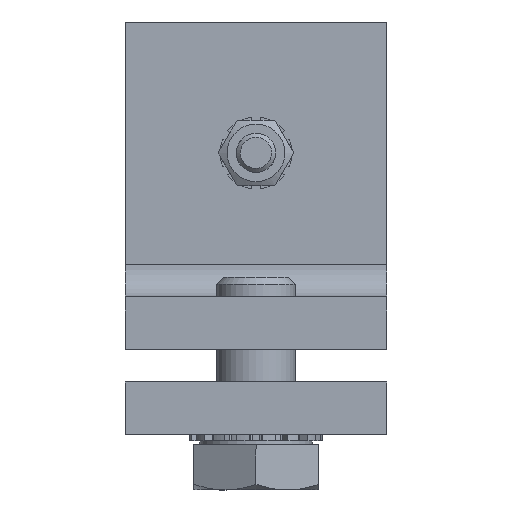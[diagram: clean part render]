
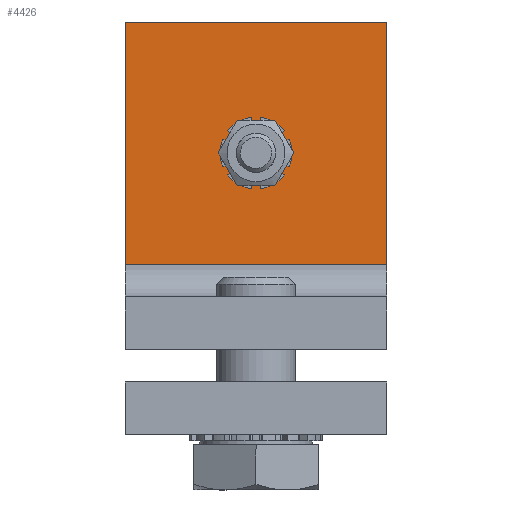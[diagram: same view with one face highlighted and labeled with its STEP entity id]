
A CAD part, front view. The second image highlights one B-rep face of the part: STEP entity #4426.
In plain terms, the highlighted planar face has unit normal (0, -1, 0).
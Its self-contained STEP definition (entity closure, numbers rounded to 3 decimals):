
#143=PLANE('',#4705);
#254=LINE('',#6755,#600);
#257=LINE('',#6761,#603);
#258=LINE('',#6763,#604);
#259=LINE('',#6764,#605);
#600=VECTOR('',#5285,37.);
#603=VECTOR('',#5290,40.);
#604=VECTOR('',#5291,37.);
#605=VECTOR('',#5292,40.);
#946=FACE_BOUND('',#1264,.T.);
#998=FACE_OUTER_BOUND('',#1263,.T.);
#1263=EDGE_LOOP('',(#2977,#2978,#2979,#2980));
#1264=EDGE_LOOP('',(#2981));
#1567=CIRCLE('',#4693,3.5);
#1849=VERTEX_POINT('',#6728);
#1859=VERTEX_POINT('',#6752);
#1860=VERTEX_POINT('',#6754);
#1862=VERTEX_POINT('',#6760);
#1863=VERTEX_POINT('',#6762);
#2299=EDGE_CURVE('',#1849,#1849,#1567,.T.);
#2310=EDGE_CURVE('',#1860,#1859,#254,.T.);
#2313=EDGE_CURVE('',#1859,#1862,#257,.T.);
#2314=EDGE_CURVE('',#1863,#1862,#258,.T.);
#2315=EDGE_CURVE('',#1863,#1860,#259,.T.);
#2977=ORIENTED_EDGE('',*,*,#2313,.T.);
#2978=ORIENTED_EDGE('',*,*,#2314,.F.);
#2979=ORIENTED_EDGE('',*,*,#2315,.T.);
#2980=ORIENTED_EDGE('',*,*,#2310,.T.);
#2981=ORIENTED_EDGE('',*,*,#2299,.T.);
#4426=ADVANCED_FACE('',(#998,#946),#143,.T.);
#4693=AXIS2_PLACEMENT_3D('',#6729,#5258,#5259);
#4705=AXIS2_PLACEMENT_3D('',#6759,#5288,#5289);
#5258=DIRECTION('center_axis',(0.,1.,0.));
#5259=DIRECTION('ref_axis',(1.,0.,0.));
#5285=DIRECTION('',(0.,0.,-1.));
#5288=DIRECTION('center_axis',(0.,-1.,0.));
#5289=DIRECTION('ref_axis',(1.,0.,0.));
#5290=DIRECTION('',(1.,0.,0.));
#5291=DIRECTION('',(0.,0.,-1.));
#5292=DIRECTION('',(-1.,0.,0.));
#6728=CARTESIAN_POINT('',(3.5,112.,30.));
#6729=CARTESIAN_POINT('Origin',(0.,112.,30.));
#6752=CARTESIAN_POINT('',(-20.,112.,13.));
#6754=CARTESIAN_POINT('',(-20.,112.,50.));
#6755=CARTESIAN_POINT('',(-20.,112.,-13.766));
#6759=CARTESIAN_POINT('Origin',(0.,112.,24.808));
#6760=CARTESIAN_POINT('',(20.,112.,13.));
#6761=CARTESIAN_POINT('',(0.,112.,13.));
#6762=CARTESIAN_POINT('',(20.,112.,50.));
#6763=CARTESIAN_POINT('',(20.,112.,-13.766));
#6764=CARTESIAN_POINT('',(20.,112.,50.));
